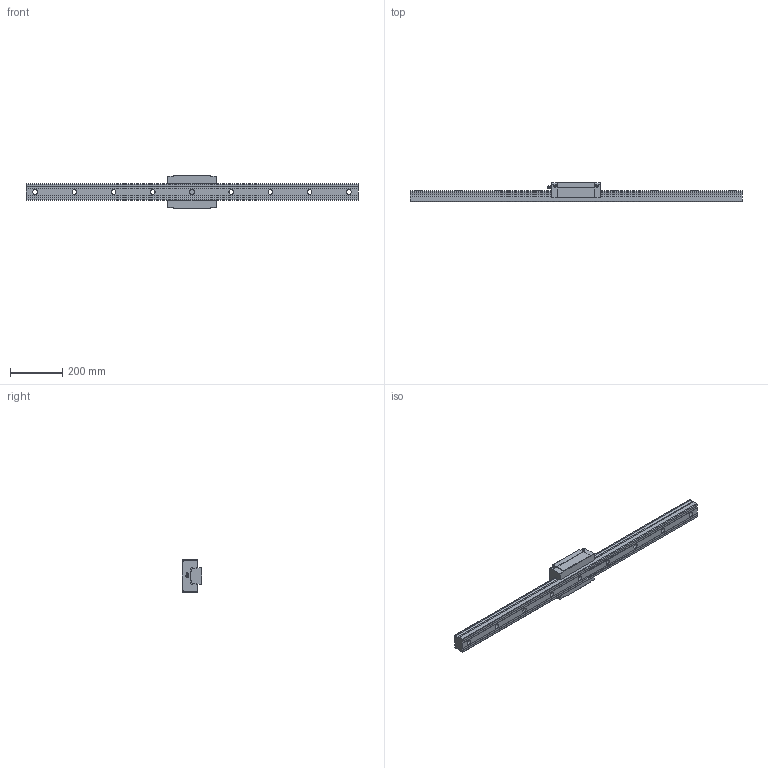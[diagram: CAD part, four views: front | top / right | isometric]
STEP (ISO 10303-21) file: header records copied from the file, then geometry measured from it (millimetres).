
FILE_DESCRIPTION(/* description */ ('STEP AP203'),/* implementation_level */ '2;1');
FILE_NAME(/* name */ 'SVR65R1SS-1270L_G35_0_B-PT18_542_0_0_0_1',/* time_stamp */ '2024-05-17T07:06:40+02:00',/* author */ ('License CC BY-ND 4.0'),/* organization */ ('CADENAS'),/* preprocessor_version */ 'ST-DEVELOPER v19.3',/* originating_system */ 'PARTsolutions',/* authorisation */ ' ');
FILE_SCHEMA (('CONFIG_CONTROL_DESIGN'));
Length unit declared in the file: millimetre
Products named in the file (4): SVR65R1SS-1270L_G35_0_B-PT18_542_0_0_0_1; SVR 65R127035 R Track; SVR 65R1SSB-PT1/81 Slide; B-PT1/8_grease_nipple_joint1_SVR
Assembly tree (3 placements, depth 2):
  SVR65R1SS-1270L_G35_0_B-PT18_542_0_0_0_1
    SVR 65R127035 R Track
    SVR 65R1SSB-PT1/81 Slide
    B-PT1/8_grease_nipple_joint1_SVR
Bounding box: 1270 x 75 x 126 mm (x, y, z)
Volume: 4085337.3 mm3; surface area: 405155.6 mm2
Topology: 3 solids, 3 shells, 186 faces, 482 edges, 317 vertices
Faces by surface type: plane 102, cylinder 59, cone 20, torus 3, sphere 2
Full cylindrical faces by diameter (mm): 8.2 x4, 9.6 x1, 13.835 x4, 18 x9, 26 x9
Entity records: 5488 total; most frequent: CARTESIAN_POINT 1033, DIRECTION 906, ORIENTED_EDGE 822, EDGE_CURVE 411, AXIS2_PLACEMENT_3D 332, VERTEX_POINT 304, FACE_BOUND 277, EDGE_LOOP 271
